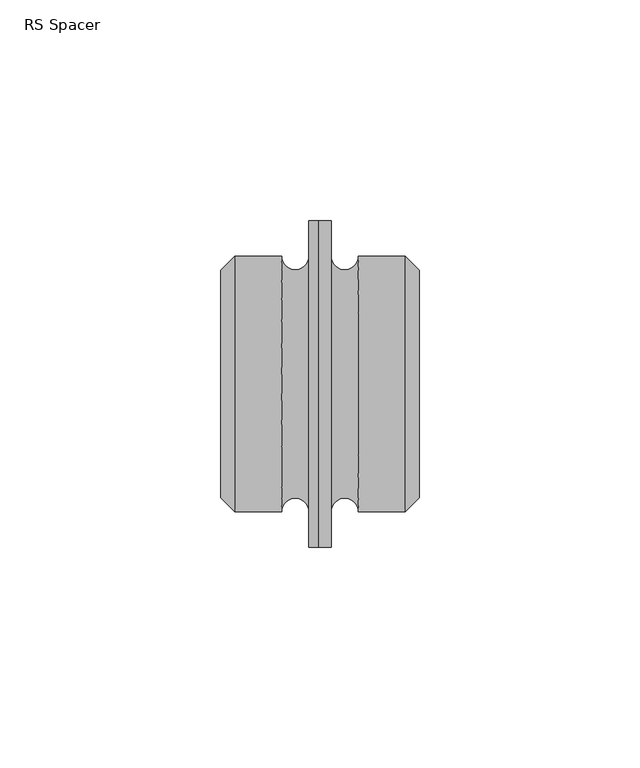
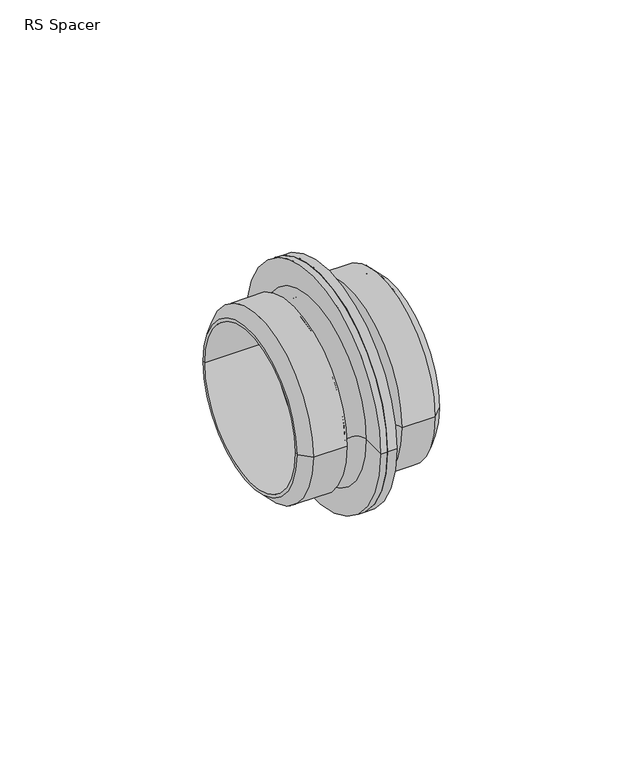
"""IFC4 building model written with IfcOpenShell, lengths in millimetres: pipe fitting geometry, RS Spacer : Superpipe RS Spacer - RS2 5mm."""

import ifcopenshell
import ifcopenshell.guid

model = None  # the IFC model being written
_history = None  # IfcOwnerHistory: only IFC2X3 demands one
_inside = {}  # id of a spatial element -> (the spatial element, [elements in it])
_under = {}  # id of a project, library or spatial element -> (it, [spatial elements below it])
_declared = {}  # id of a project -> (the project, [libraries it declares])
_typed = {}  # id of a type object -> (the type object, [elements of that type])
_made_of = {}  # id of a material, layer set ... -> (it, [elements and type objects made of it])


def new_model(schema):
    """Start an empty IFC model of exactly this schema.

    Asked for "IFC4X3", IfcOpenShell would pick the latest addendum, in which some entities
    have other attributes; the version numbers below select the first issue.
    IFC2X3 requires an IfcOwnerHistory on every rooted entity: one is made here for all.
    """
    global model, _history
    if schema == "IFC4X3":
        model = ifcopenshell.file(schema_version=(4, 3, 0, 0))
    else:
        model = ifcopenshell.file(schema=schema)
    _inside.clear()
    _under.clear()
    _declared.clear()
    _typed.clear()
    _made_of.clear()
    _history = None
    if model.schema == "IFC2X3":
        org = make("IfcOrganization", Name="unknown")
        user = make(
            "IfcPersonAndOrganization",
            ThePerson=make("IfcPerson", FamilyName="unknown"),
            TheOrganization=org,
        )
        app = make(
            "IfcApplication",
            ApplicationDeveloper=org,
            Version="unknown",
            ApplicationFullName="unknown",
            ApplicationIdentifier="unknown",
        )
        _history = make(
            "IfcOwnerHistory",
            OwningUser=user,
            OwningApplication=app,
            ChangeAction="ADDED",
            CreationDate=0,
        )
    return model


def make(cls, **values):
    """One entity of the class cls with the attributes given. An attribute that is None is left unset."""
    return model.create_entity(
        cls, **{name: value for name, value in values.items() if value is not None}
    )


def rooted(cls, **values):
    """An entity with a GlobalId (a new one), such as an element, a storey or a relation."""
    return make(cls, GlobalId=ifcopenshell.guid.new(), OwnerHistory=_history, **values)


def si_unit(unit_type, name, prefix=None):
    """IfcSIUnit, for example si_unit("LENGTHUNIT", "METRE", prefix="MILLI")."""
    return make("IfcSIUnit", UnitType=unit_type, Prefix=prefix, Name=name)


def assignment(units):
    """IfcUnitAssignment: the units of a project."""
    return None if units is None else make("IfcUnitAssignment", Units=units)


def point(xyz):
    """IfcCartesianPoint."""
    return None if xyz is None else make("IfcCartesianPoint", Coordinates=xyz)


def direction(xyz):
    """IfcDirection."""
    return None if xyz is None else make("IfcDirection", DirectionRatios=xyz)


def frame(location, z_axis=None, x_axis=None):
    """IfcAxis2Placement3D, a coordinate frame: its origin and axes. An axis left out is left unset."""
    return make(
        "IfcAxis2Placement3D",
        Location=point(location),
        Axis=direction(z_axis),
        RefDirection=direction(x_axis),
    )


def origin():
    """The frame at (0, 0, 0) with its axes left unset."""
    return frame((0.0, 0.0, 0.0))


def place(relative_to, where):
    """IfcLocalPlacement: puts the frame where relative to a parent placement (None: the world)."""
    return make(
        "IfcLocalPlacement", PlacementRelTo=relative_to, RelativePlacement=where
    )


def context(
    kind, dimensions, precision=None, world=None, true_north=None, identifier=None
):
    """IfcGeometricRepresentationContext, for example the 3D "Model" context."""
    return make(
        "IfcGeometricRepresentationContext",
        ContextIdentifier=identifier,
        ContextType=kind,
        CoordinateSpaceDimension=dimensions,
        Precision=precision,
        WorldCoordinateSystem=world,
        TrueNorth=true_north,
    )


def project(units=None, contexts=None):
    """IfcProject with its units and contexts."""
    return rooted(
        "IfcProject",
        Name="project",
        RepresentationContexts=contexts,
        UnitsInContext=assignment(units),
    )


def spatial(cls, under=None, at=None, **own):
    """A site, building, storey or space (cls), placed at a placement, below another one or the project."""
    s = rooted(cls, ObjectPlacement=at, **own)
    if under is not None:
        _under.setdefault(under.id(), (under, []))[1].append(s)
    return s


def polyline(points):
    """IfcPolyline through the points."""
    return make("IfcPolyline", Points=[point(p) for p in points])


def circle_curve(where, radius):
    """IfcCircle in the frame where."""
    return make("IfcCircle", Position=where, Radius=radius)


def ellipse_curve(where, semi_axis1, semi_axis2):
    """IfcEllipse in the frame where."""
    return make(
        "IfcEllipse", Position=where, SemiAxis1=semi_axis1, SemiAxis2=semi_axis2
    )


def trimmed(basis, trim1, trim2, sense, master):
    """IfcTrimmedCurve: the piece of a basis curve between two trims."""
    return make(
        "IfcTrimmedCurve",
        BasisCurve=basis,
        Trim1=trim1,
        Trim2=trim2,
        SenseAgreement=sense,
        MasterRepresentation=master,
    )


def shape(context_of_items, identifier, shape_type, items):
    """IfcShapeRepresentation: the items that make up one representation, for example the "Body"."""
    return make(
        "IfcShapeRepresentation",
        ContextOfItems=context_of_items,
        RepresentationIdentifier=identifier,
        RepresentationType=shape_type,
        Items=items,
    )


def source(mapping_origin, context_of_items, identifier, shape_type, items):
    """IfcRepresentationMap: a shape defined once, which mapped items show again and again."""
    return make(
        "IfcRepresentationMap",
        MappingOrigin=mapping_origin,
        MappedRepresentation=shape(context_of_items, identifier, shape_type, items),
    )


def transform(
    local_origin,
    x_axis=None,
    y_axis=None,
    z_axis=None,
    scale=None,
    scale2=None,
    scale3=None,
    uniform=True,
):
    """IfcCartesianTransformationOperator3D, or its non-uniform kind. x_axis, y_axis, z_axis: its Axis1, 2, 3."""
    if uniform:
        return make(
            "IfcCartesianTransformationOperator3D",
            Axis1=direction(x_axis),
            Axis2=direction(y_axis),
            LocalOrigin=point(local_origin),
            Scale=scale,
            Axis3=direction(z_axis),
        )
    return make(
        "IfcCartesianTransformationOperator3DnonUniform",
        Axis1=direction(x_axis),
        Axis2=direction(y_axis),
        LocalOrigin=point(local_origin),
        Scale=scale,
        Axis3=direction(z_axis),
        Scale2=scale2,
        Scale3=scale3,
    )


def mapped(mapping_source, mapping_target):
    """IfcMappedItem: shows the shape of a source again, moved by a transform."""
    return make(
        "IfcMappedItem", MappingSource=mapping_source, MappingTarget=mapping_target
    )


def made_of(thing, what):
    """Note that an element or type object is made of a material, layer set ...; save() writes the relation."""
    if what is not None:
        _made_of.setdefault(what.id(), (what, []))[1].append(thing)
    return thing


def element(
    cls,
    number,
    at=None,
    inside=None,
    cuts=None,
    type_object=None,
    material=None,
    context=None,
    identifier="Body",
    shape_type=None,
    held_by="IfcProductDefinitionShape",
    body=None,
    shapes=None,
    **own,
):
    """One element of the class cls, such as IfcWall. Its Tag is "e" and its number.

    at: its placement. inside: the storey or other place that contains it. cuts: it is an
    opening in that element (IfcRelVoidsElement). A single representation is given by context,
    identifier, shape_type and body (its items); several are given by shapes. held_by: the class
    of the entity that holds the representations. save() writes the other relations.
    """
    e = rooted(cls, Tag="e%d" % number, ObjectPlacement=at, **own)
    if body is not None:
        shapes = [shape(context, identifier, shape_type, body)]
    if shapes is not None:
        e.Representation = make(held_by, Representations=shapes)
    if inside is not None:
        _inside.setdefault(inside.id(), (inside, []))[1].append(e)
    if cuts is not None:
        rooted(
            "IfcRelVoidsElement", RelatingBuildingElement=cuts, RelatedOpeningElement=e
        )
    if type_object is not None:
        _typed.setdefault(type_object.id(), (type_object, []))[1].append(e)
    return made_of(e, material)


def aggregate(whole, parts):
    """IfcRelAggregates: a whole, such as a stair, and the parts it consists of."""
    return rooted("IfcRelAggregates", RelatingObject=whole, RelatedObjects=parts)


def save(model, path):
    """Write the relations noted so far, then the file.

    IfcRelAggregates (storeys below a building ...), IfcRelContainedInSpatialStructure (elements
    in a storey), IfcRelDefinesByType, IfcRelAssociatesMaterial and IfcRelDeclares: one each for
    every whole, place, type object, material and project.
    """
    for whole, parts in _under.values():
        aggregate(whole, parts)
    for where, things in _inside.values():
        rooted(
            "IfcRelContainedInSpatialStructure",
            RelatedElements=things,
            RelatingStructure=where,
        )
    for kind, things in _typed.values():
        rooted("IfcRelDefinesByType", RelatedObjects=things, RelatingType=kind)
    for what, things in _made_of.values():
        rooted("IfcRelAssociatesMaterial", RelatedObjects=things, RelatingMaterial=what)
    for by, libraries in _declared.values():
        rooted("IfcRelDeclares", RelatingContext=by, RelatedDefinitions=libraries)
    model.write(path)


def plane_surface(at):
    """IfcPlane: the flat surface through the origin of the frame at, square to its z axis."""
    return make("IfcPlane", Position=at)


def cylinder_surface(at, radius):
    """IfcCylindricalSurface: all points at the distance radius from the z axis of the frame at."""
    return make("IfcCylindricalSurface", Position=at, Radius=radius)


def revolved_surface(curve, axis_point, axis_direction):
    """IfcSurfaceOfRevolution: the curve turned about the line through axis_point along axis_direction."""
    return make(
        "IfcSurfaceOfRevolution",
        SweptCurve=make("IfcArbitraryOpenProfileDef", ProfileType="CURVE", Curve=curve),
        AxisPosition=make("IfcAxis1Placement", Location=point(axis_point), Axis=direction(axis_direction)),
    )


def advanced_brep(points, edges, surfaces, faces):
    """IfcAdvancedBrep: a solid bounded by faces that lie on surfaces and meet in shared edges.

    An edge is (start, end): straight between two places in points (the first is 0);
    or (start, end, curve); or (start, end, curve, False) where it runs against its curve.
    A face is (place in surfaces, loops), or (place, loops, False) where it looks against
    its surface's normal. A loop lists edges by number (the first is 1), with a minus sign
    where the edge is run from its end to its start. The first loop is the outer one.
    """
    corners = [point(p) for p in points]
    vertices = [make("IfcVertexPoint", VertexGeometry=c) for c in corners]
    made = []
    for start, end, *more in edges:
        made.append(
            make(
                "IfcEdgeCurve",
                EdgeStart=vertices[start],
                EdgeEnd=vertices[end],
                EdgeGeometry=more[0] if more else make("IfcPolyline", Points=[corners[start], corners[end]]),
                SameSense=more[1] if len(more) > 1 else True,
            )
        )
    hull = []
    for where, loops, *sense in faces:
        bounds = []
        for j, loop in enumerate(loops):
            ring = [make("IfcOrientedEdge", EdgeElement=made[abs(k) - 1], Orientation=k > 0) for k in loop]
            bounds.append(
                make(
                    "IfcFaceOuterBound" if j == 0 else "IfcFaceBound",
                    Bound=make("IfcEdgeLoop", EdgeList=ring),
                    Orientation=True,
                )
            )
        hull.append(make("IfcAdvancedFace", Bounds=bounds, FaceSurface=surfaces[where], SameSense=sense[0] if sense else True))
    return make("IfcAdvancedBrep", Outer=make("IfcClosedShell", CfsFaces=hull))


def rs_spacer_eb34c34b(model_context):
    return source(origin(), model_context, "Body", "AdvancedBrep", [
        advanced_brep(
        [(22.2, -37.0, 0.0), (22.2, 37.0, 0.0), (25.0, 37.0, 0.0), (25.0, -37.0, 0.0), (25.0, 29.0, 0.0), (25.0, -29.0, 0.0), (45.0, -24.8, 0.0), (45.0, 24.8, 0.0), (22.2, 24.8, 0.0), (22.2, -24.8, 0.0), (41.8, -29.0, 0.0), (41.8, 29.0, 0.0), (45.0, 25.8, 0.0), (45.0, -25.8, 0.0), (31.2, 29.0, 0.0), (31.2, -29.0, 0.0)],
        [
            (0, 1, circle_curve(frame((22.2, 0.0, 0.0), z_axis=(1.0, 0.0, 0.0), x_axis=(0.0, 1.0, 0.0)), 37.0)),
            (1, 2),
            (2, 3, circle_curve(frame((25.0, 0.0, 0.0), z_axis=(-1.0, 0.0, 0.0), x_axis=(0.0, 1.0, 0.0)), 37.0)),
            (3, 0),
            (1, 0, circle_curve(frame((22.2, 0.0, 0.0), z_axis=(1.0, 0.0, 0.0), x_axis=(0.0, 1.0, 0.0)), 37.0)),
            (3, 2, circle_curve(frame((25.0, 0.0, 0.0), z_axis=(-1.0, 0.0, 0.0), x_axis=(0.0, 1.0, 0.0)), 37.0)),
            (2, 4),
            (4, 5, circle_curve(frame((25.0, 0.0, 0.0), z_axis=(-1.0, 0.0, 0.0), x_axis=(0.0, 1.0, 0.0)), 29.0)),
            (5, 3),
            (5, 4, circle_curve(frame((25.0, 0.0, 0.0), z_axis=(-1.0, 0.0, 0.0), x_axis=(0.0, 1.0, 0.0)), 29.0)),
            (6, 7, circle_curve(frame((45.0, 0.0, 0.0), z_axis=(1.0, 0.0, 0.0), x_axis=(0.0, 1.0, 0.0)), 24.8)),
            (7, 8),
            (8, 9, circle_curve(frame((22.2, 0.0, 0.0), z_axis=(-1.0, 0.0, 0.0), x_axis=(0.0, 1.0, 0.0)), 24.8)),
            (9, 6),
            (7, 6, circle_curve(frame((45.0, 0.0, 0.0), z_axis=(1.0, 0.0, 0.0), x_axis=(0.0, 1.0, 0.0)), 24.8)),
            (9, 8, circle_curve(frame((22.2, 0.0, 0.0), z_axis=(-1.0, 0.0, 0.0), x_axis=(0.0, 1.0, 0.0)), 24.8)),
            (8, 1),
            (0, 9),
            (10, 11, circle_curve(frame((41.8, 0.0, 0.0), z_axis=(1.0, 0.0, 0.0), x_axis=(0.0, 1.0, 0.0)), 29.0)),
            (11, 12),
            (12, 13, circle_curve(frame((45.0, 0.0, 0.0), z_axis=(-1.0, 0.0, 0.0), x_axis=(0.0, 1.0, 0.0)), 25.8)),
            (13, 10),
            (11, 10, circle_curve(frame((41.8, 0.0, 0.0), z_axis=(1.0, 0.0, 0.0), x_axis=(0.0, 1.0, 0.0)), 29.0)),
            (13, 12, circle_curve(frame((45.0, 0.0, 0.0), z_axis=(-1.0, 0.0, 0.0), x_axis=(0.0, 1.0, 0.0)), 25.8)),
            (12, 7),
            (6, 13),
            (4, 14, circle_curve(frame((28.1, 29.0, 0.0), z_axis=(0.0, 0.0, 1.0), x_axis=(-1.0, 0.0, 0.0)), 3.1)),
            (14, 15, circle_curve(frame((31.2, 0.0, 0.0), z_axis=(-1.0, 0.0, 0.0), x_axis=(0.0, 1.0, 0.0)), 29.0)),
            (15, 5, circle_curve(frame((28.1, -29.0, 0.0), z_axis=(0.0, 0.0, 1.0), x_axis=(-1.0, 0.0, 0.0)), 3.1)),
            (15, 14, circle_curve(frame((31.2, 0.0, 0.0), z_axis=(-1.0, 0.0, 0.0), x_axis=(0.0, 1.0, 0.0)), 29.0)),
            (14, 11),
            (10, 15),
        ],
        [
            cylinder_surface(frame((-1994.4, 0.0, 0.0), z_axis=(-1.0, 0.0, 0.0), x_axis=(0.0, 1.0, 0.0)), 37.0),
            plane_surface(frame((25.0, 0.0, 0.0), z_axis=(1.0, 0.0, 0.0), x_axis=(0.0, 1.0, 0.0))),
            revolved_surface(polyline([(22.200000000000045, 24.8, 0.0), (45.0, 24.8, 0.0)]), (-1994.4, 0.0, 0.0), (-1.0, 0.0, 0.0)),
            plane_surface(frame((22.2, 0.0, 0.0), z_axis=(-1.0, 0.0, 0.0), x_axis=(0.0, 1.0, 0.0))),
            revolved_surface(polyline([(45.0, 25.8, 0.0), (41.8, 29.0, 0.0)]), (-1994.4, 0.0, 0.0), (-1.0, 0.0, 0.0)),
            plane_surface(frame((45.0, 0.0, 0.0), z_axis=(1.0, 0.0, 0.0), x_axis=(0.0, 1.0, 0.0))),
            revolved_surface(trimmed(ellipse_curve(frame((28.1, 29.0, 0.0), z_axis=(0.0, 0.0, -1.0), x_axis=(-1.0, 0.0, 0.0)), 3.1, 3.1), [point((31.2, 29.0, 0.0))], [point((25.0, 29.0, 0.0))], True, "CARTESIAN"), (-1994.4, 0.0, 0.0), (-1.0, 0.0, 0.0)),
            cylinder_surface(frame((-1994.4, 0.0, 0.0), z_axis=(-1.0, 0.0, 0.0), x_axis=(0.0, 1.0, 0.0)), 29.0),
        ],
        [
            (0, [[1, 2, 3, 4]]),
            (0, [[5, -4, 6, -2]]),
            (1, [[-3, 7, 8, 9]]),
            (1, [[-6, -9, 10, -7]]),
            (2, [[11, 12, 13, 14]]),
            (2, [[15, -14, 16, -12]]),
            (3, [[-13, 17, -1, 18]]),
            (3, [[-16, -18, -5, -17]]),
            (4, [[19, 20, 21, 22]]),
            (4, [[23, -22, 24, -20]]),
            (5, [[-21, 25, -11, 26]]),
            (5, [[-24, -26, -15, -25]]),
            (6, [[-8, 27, 28, 29]]),
            (6, [[-10, -29, 30, -27]]),
            (7, [[-28, 31, -19, 32]]),
            (7, [[-30, -32, -23, -31]]),
        ],
    ),
        advanced_brep(
        [(20.0, -37.0, 0.0), (20.0, 37.0, 0.0), (22.8, 37.0, 0.0), (22.8, -37.0, 0.0), (20.0, -29.0, 0.0), (20.0, 29.0, 0.0), (22.8, -24.8, 0.0), (22.8, 24.8, 0.0), (0.0, 24.8, 0.0), (0.0, -24.8, 0.0), (0.0, -25.8, 0.0), (0.0, 25.8, 0.0), (3.2, 29.0, 0.0), (3.2, -29.0, 0.0), (13.8, -29.0, 0.0), (13.8, 29.0, 0.0)],
        [
            (0, 1, circle_curve(frame((20.0, 0.0, 0.0), z_axis=(1.0, 0.0, 0.0), x_axis=(0.0, 1.0, 0.0)), 37.0)),
            (1, 2),
            (2, 3, circle_curve(frame((22.8, 0.0, 0.0), z_axis=(-1.0, 0.0, 0.0), x_axis=(0.0, 1.0, 0.0)), 37.0)),
            (3, 0),
            (1, 0, circle_curve(frame((20.0, 0.0, 0.0), z_axis=(1.0, 0.0, 0.0), x_axis=(0.0, 1.0, 0.0)), 37.0)),
            (3, 2, circle_curve(frame((22.8, 0.0, 0.0), z_axis=(-1.0, 0.0, 0.0), x_axis=(0.0, 1.0, 0.0)), 37.0)),
            (4, 5, circle_curve(frame((20.0, 0.0, 0.0), z_axis=(1.0, 0.0, 0.0), x_axis=(0.0, 1.0, 0.0)), 29.0)),
            (5, 1),
            (0, 4),
            (5, 4, circle_curve(frame((20.0, 0.0, 0.0), z_axis=(1.0, 0.0, 0.0), x_axis=(0.0, 1.0, 0.0)), 29.0)),
            (6, 7, circle_curve(frame((22.8, 0.0, 0.0), z_axis=(1.0, 0.0, 0.0), x_axis=(0.0, 1.0, 0.0)), 24.8)),
            (7, 8),
            (8, 9, circle_curve(frame((0.0, 0.0, 0.0), z_axis=(-1.0, 0.0, 0.0), x_axis=(0.0, 1.0, 0.0)), 24.8)),
            (9, 6),
            (7, 6, circle_curve(frame((22.8, 0.0, 0.0), z_axis=(1.0, 0.0, 0.0), x_axis=(0.0, 1.0, 0.0)), 24.8)),
            (9, 8, circle_curve(frame((0.0, 0.0, 0.0), z_axis=(-1.0, 0.0, 0.0), x_axis=(0.0, 1.0, 0.0)), 24.8)),
            (2, 7),
            (6, 3),
            (10, 11, circle_curve(frame((0.0, 0.0, 0.0), z_axis=(1.0, 0.0, 0.0), x_axis=(0.0, 1.0, 0.0)), 25.8)),
            (11, 12),
            (12, 13, circle_curve(frame((3.2, 0.0, 0.0), z_axis=(-1.0, 0.0, 0.0), x_axis=(0.0, 1.0, 0.0)), 29.0)),
            (13, 10),
            (11, 10, circle_curve(frame((0.0, 0.0, 0.0), z_axis=(1.0, 0.0, 0.0), x_axis=(0.0, 1.0, 0.0)), 25.8)),
            (13, 12, circle_curve(frame((3.2, 0.0, 0.0), z_axis=(-1.0, 0.0, 0.0), x_axis=(0.0, 1.0, 0.0)), 29.0)),
            (8, 11),
            (10, 9),
            (14, 15, circle_curve(frame((13.8, 0.0, 0.0), z_axis=(1.0, 0.0, 0.0), x_axis=(0.0, 1.0, 0.0)), 29.0)),
            (15, 5, circle_curve(frame((16.9, 29.0, 0.0), z_axis=(0.0, 0.0, 1.0), x_axis=(1.0, 0.0, 0.0)), 3.1)),
            (4, 14, circle_curve(frame((16.9, -29.0, 0.0), z_axis=(0.0, 0.0, 1.0), x_axis=(1.0, 0.0, 0.0)), 3.1)),
            (15, 14, circle_curve(frame((13.8, 0.0, 0.0), z_axis=(1.0, 0.0, 0.0), x_axis=(0.0, 1.0, 0.0)), 29.0)),
            (12, 15),
            (14, 13),
        ],
        [
            cylinder_surface(frame((1965.0, 0.0, 0.0), z_axis=(-1.0, 0.0, 0.0), x_axis=(0.0, 1.0, 0.0)), 37.0),
            plane_surface(frame((20.0, 0.0, 0.0), z_axis=(-1.0, 0.0, 0.0), x_axis=(0.0, 1.0, 0.0))),
            revolved_surface(polyline([(0.0, 24.8, 0.0), (22.799999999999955, 24.8, 0.0)]), (1965.0, 0.0, 0.0), (-1.0, 0.0, 0.0)),
            plane_surface(frame((22.8, 0.0, 0.0), z_axis=(1.0, 0.0, 0.0), x_axis=(0.0, 1.0, 0.0))),
            revolved_surface(polyline([(3.2, 29.0, 0.0), (0.0, 25.8, 0.0)]), (1965.0, 0.0, 0.0), (-1.0, 0.0, 0.0)),
            plane_surface(frame((0.0, 0.0, 0.0), z_axis=(-1.0, 0.0, 0.0), x_axis=(0.0, 1.0, 0.0))),
            revolved_surface(trimmed(ellipse_curve(frame((16.9, 29.0, 0.0), z_axis=(0.0, 0.0, -1.0), x_axis=(1.0, 0.0, 0.0)), 3.1, 3.1), [point((20.0, 29.0, 0.0))], [point((13.8, 29.0, 0.0))], True, "CARTESIAN"), (1965.0, 0.0, 0.0), (-1.0, 0.0, 0.0)),
            cylinder_surface(frame((1965.0, 0.0, 0.0), z_axis=(-1.0, 0.0, 0.0), x_axis=(0.0, 1.0, 0.0)), 29.0),
        ],
        [
            (0, [[1, 2, 3, 4]]),
            (0, [[5, -4, 6, -2]]),
            (1, [[7, 8, -1, 9]]),
            (1, [[10, -9, -5, -8]]),
            (2, [[11, 12, 13, 14]]),
            (2, [[15, -14, 16, -12]]),
            (3, [[-3, 17, -11, 18]]),
            (3, [[-6, -18, -15, -17]]),
            (4, [[19, 20, 21, 22]]),
            (4, [[23, -22, 24, -20]]),
            (5, [[-13, 25, -19, 26]]),
            (5, [[-16, -26, -23, -25]]),
            (6, [[27, 28, -7, 29]]),
            (6, [[30, -29, -10, -28]]),
            (7, [[-21, 31, -27, 32]]),
            (7, [[-24, -32, -30, -31]]),
        ],
    ),
    ])


if __name__ == "__main__":
    model = new_model("IFC4")
    model_context = context("Model", 3, world=origin())
    ifc_project = project(units=[si_unit("LENGTHUNIT", "METRE", prefix="MILLI")], contexts=[model_context])
    site = spatial("IfcSite", under=ifc_project)
    building = spatial("IfcBuilding", under=site)
    placement = place(None, origin())
    rs_spacer_shape = rs_spacer_eb34c34b(model_context)
    element("IfcPipeFitting", 1, ObjectType="RS Spacer : Superpipe RS Spacer - RS2 5mm", at=placement, inside=building, context=model_context, shape_type="MappedRepresentation", body=[
        mapped(rs_spacer_shape, transform((0.0, 0.0, 0.0), x_axis=(1.0, 0.0, 0.0), y_axis=(0.0, 1.0, 0.0), z_axis=(0.0, 0.0, 1.0))),
    ])
    save(model, "model.ifc")
